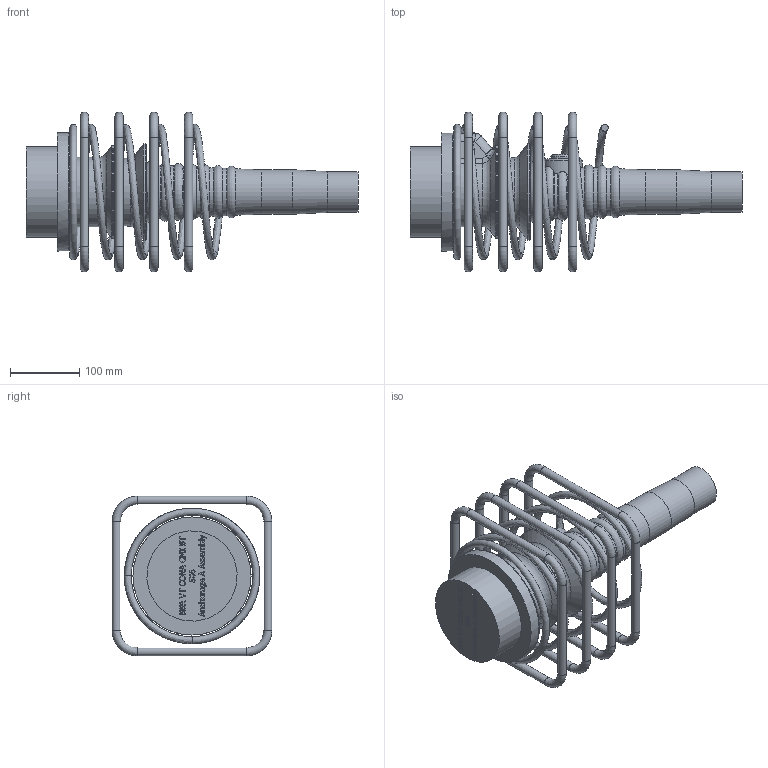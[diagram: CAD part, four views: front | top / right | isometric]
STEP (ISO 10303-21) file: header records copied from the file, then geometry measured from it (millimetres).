
FILE_DESCRIPTION(/* description */ (''),/* implementation_level */ '2;1');
FILE_NAME(/* name */ 'Z:\04 Publications\05 Give-out\BBR\6_3D_Models\BBR VT CONA CMI\BBR VT CONA CMI BT\00506\BBR VT CONA CMI BT 506_Anchorage A Assembly_CS-34,28.stp',/* time_stamp */ '2017-05-04T16:24:13+02:00',/* author */ ('IP'),/* organization */ (''),/* preprocessor_version */ 'ST-DEVELOPER v16.1',/* originating_system */ 'Autodesk Inventor 2016',/* authorisation */ '');
FILE_SCHEMA (('AUTOMOTIVE_DESIGN { 1 0 10303 214 3 1 1 }'));
Length unit declared in the file: millimetre
Products named in the file (1): BBR VT CONA CMI BT 506_Anchorage A Assembly_CS-34,28
Bounding box: 478.1 x 230 x 230 mm (x, y, z)
Volume: 3843669.5 mm3; surface area: 415231 mm2
Topology: 6 solids, 6 shells, 738 faces, 1914 edges, 1232 vertices
Faces by surface type: plane 315, bspline 314, torus 55, cylinder 33, sphere 12, cone 9
Full cylindrical faces by diameter (mm): 12 x16, 34 x1, 57 x1, 59 x1, 64 x1, 130 x1, 133.801 x1, 139.387 x1, 170 x1
Entity records: 27207 total; most frequent: CARTESIAN_POINT 10798, ORIENTED_EDGE 3662, DIRECTION 2224, EDGE_CURVE 1831, VERTEX_POINT 1225, LINE 1042, VECTOR 1042, EDGE_LOOP 866
